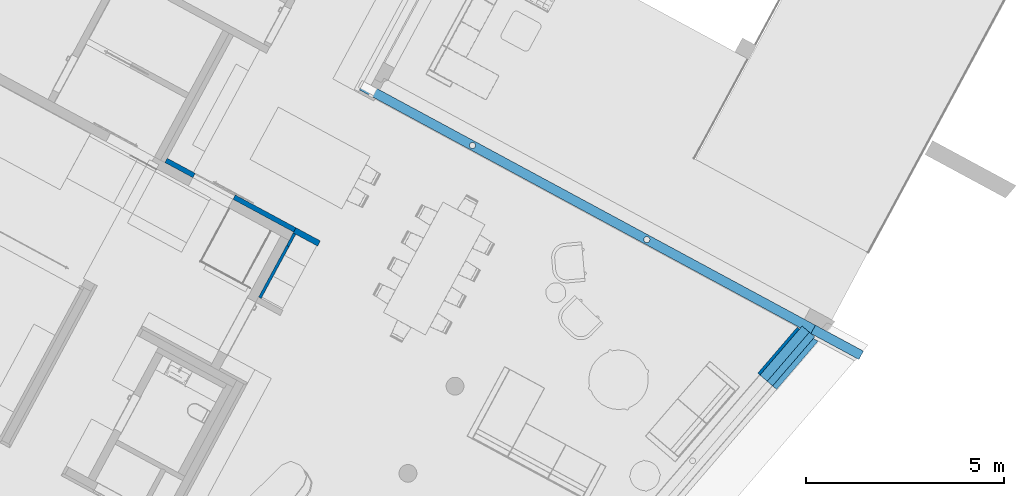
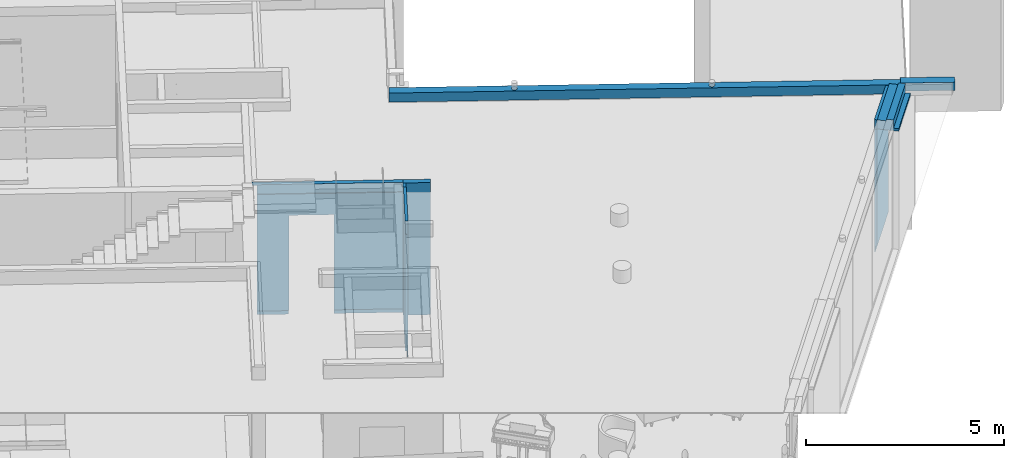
# One storey, part 11 of 52: 8 walls, 1 opening.
"""IFC2X3 building model written with IfcOpenShell, lengths in metres."""

import ifcopenshell
import ifcopenshell.guid

model = None  # the IFC model being written
_history = None  # IfcOwnerHistory: only IFC2X3 demands one
_inside = {}  # id of a spatial element -> (the spatial element, [elements in it])
_under = {}  # id of a project, library or spatial element -> (it, [spatial elements below it])
_declared = {}  # id of a project -> (the project, [libraries it declares])
_typed = {}  # id of a type object -> (the type object, [elements of that type])
_made_of = {}  # id of a material, layer set ... -> (it, [elements and type objects made of it])


def new_model(schema):
    """Start an empty IFC model of exactly this schema.

    Asked for "IFC4X3", IfcOpenShell would pick the latest addendum, in which some entities
    have other attributes; the version numbers below select the first issue.
    IFC2X3 requires an IfcOwnerHistory on every rooted entity: one is made here for all.
    """
    global model, _history
    if schema == "IFC4X3":
        model = ifcopenshell.file(schema_version=(4, 3, 0, 0))
    else:
        model = ifcopenshell.file(schema=schema)
    _inside.clear()
    _under.clear()
    _declared.clear()
    _typed.clear()
    _made_of.clear()
    _history = None
    if model.schema == "IFC2X3":
        org = make("IfcOrganization", Name="unknown")
        user = make(
            "IfcPersonAndOrganization",
            ThePerson=make("IfcPerson", FamilyName="unknown"),
            TheOrganization=org,
        )
        app = make(
            "IfcApplication",
            ApplicationDeveloper=org,
            Version="unknown",
            ApplicationFullName="unknown",
            ApplicationIdentifier="unknown",
        )
        _history = make(
            "IfcOwnerHistory",
            OwningUser=user,
            OwningApplication=app,
            ChangeAction="ADDED",
            CreationDate=0,
        )
    return model


def make(cls, **values):
    """One entity of the class cls with the attributes given. An attribute that is None is left unset."""
    return model.create_entity(
        cls, **{name: value for name, value in values.items() if value is not None}
    )


def entity(cls, *values):
    """Any entity or typed value of the class cls, its attributes in the order of the schema. None: left unset."""
    e = model.create_entity(cls)
    for i, value in enumerate(values):
        if value is not None:
            e[i] = value
    return e


def rooted(cls, **values):
    """An entity with a GlobalId (a new one), such as an element, a storey or a relation."""
    return make(cls, GlobalId=ifcopenshell.guid.new(), OwnerHistory=_history, **values)


def si_unit(unit_type, name, prefix=None):
    """IfcSIUnit, for example si_unit("LENGTHUNIT", "METRE", prefix="MILLI")."""
    return make("IfcSIUnit", UnitType=unit_type, Prefix=prefix, Name=name)


def converted_unit(unit_type, name, factor, base, dimensions=None, offset=None):
    """IfcConversionBasedUnit, such as the inch: factor (a typed value) times the base unit."""
    return make(
        "IfcConversionBasedUnit"
        if offset is None
        else "IfcConversionBasedUnitWithOffset",
        ConversionOffset=offset,
        Dimensions=None
        if dimensions is None
        else entity("IfcDimensionalExponents", *dimensions),
        UnitType=unit_type,
        Name=name,
        ConversionFactor=make(
            "IfcMeasureWithUnit", ValueComponent=factor, UnitComponent=base
        ),
    )


def derived_unit(unit_type, elements):
    """IfcDerivedUnit: a product of units, each with its exponent."""
    return make(
        "IfcDerivedUnit",
        Elements=[
            make("IfcDerivedUnitElement", Unit=unit, Exponent=power)
            for unit, power in elements
        ],
        UnitType=unit_type,
    )


def money_unit(currency):
    """IfcMonetaryUnit."""
    return make("IfcMonetaryUnit", Currency=currency)


def assignment(units):
    """IfcUnitAssignment: the units of a project."""
    return None if units is None else make("IfcUnitAssignment", Units=units)


def point(xyz):
    """IfcCartesianPoint."""
    return None if xyz is None else make("IfcCartesianPoint", Coordinates=xyz)


def direction(xyz):
    """IfcDirection."""
    return None if xyz is None else make("IfcDirection", DirectionRatios=xyz)


def frame(location, z_axis=None, x_axis=None):
    """IfcAxis2Placement3D, a coordinate frame: its origin and axes. An axis left out is left unset."""
    return make(
        "IfcAxis2Placement3D",
        Location=point(location),
        Axis=direction(z_axis),
        RefDirection=direction(x_axis),
    )


def frame_2d(location, x_axis=None):
    """IfcAxis2Placement2D, a coordinate frame in the plane: its origin and x axis."""
    return make(
        "IfcAxis2Placement2D", Location=point(location), RefDirection=direction(x_axis)
    )


def origin_with_axes():
    """The frame at (0, 0, 0) with the z axis (0, 0, 1) and the x axis (1, 0, 0) written out."""
    return frame((0.0, 0.0, 0.0), z_axis=(0.0, 0.0, 1.0), x_axis=(1.0, 0.0, 0.0))


def origin_2d_with_axis():
    """The frame at (0, 0) in the plane with the x axis (1, 0) written out."""
    return frame_2d((0.0, 0.0), x_axis=(1.0, 0.0))


def place(relative_to, where):
    """IfcLocalPlacement: puts the frame where relative to a parent placement (None: the world)."""
    return make(
        "IfcLocalPlacement", PlacementRelTo=relative_to, RelativePlacement=where
    )


def context(
    kind, dimensions, precision=None, world=None, true_north=None, identifier=None
):
    """IfcGeometricRepresentationContext, for example the 3D "Model" context."""
    return make(
        "IfcGeometricRepresentationContext",
        ContextIdentifier=identifier,
        ContextType=kind,
        CoordinateSpaceDimension=dimensions,
        Precision=precision,
        WorldCoordinateSystem=world,
        TrueNorth=true_north,
    )


def subcontext(parent, identifier, kind, view, scale=None):
    """IfcGeometricRepresentationSubContext, for example "Body" below "Model"."""
    return make(
        "IfcGeometricRepresentationSubContext",
        ContextIdentifier=identifier,
        ContextType=kind,
        ParentContext=parent,
        TargetScale=scale,
        TargetView=view,
    )


def project(units=None, contexts=None):
    """IfcProject with its units and contexts."""
    return rooted(
        "IfcProject",
        Name="project",
        RepresentationContexts=contexts,
        UnitsInContext=assignment(units),
    )


def spatial(cls, under=None, at=None, **own):
    """A site, building, storey or space (cls), placed at a placement, below another one or the project."""
    s = rooted(cls, ObjectPlacement=at, **own)
    if under is not None:
        _under.setdefault(under.id(), (under, []))[1].append(s)
    return s


def profile(cls, at=None, kind="AREA", **sizes):
    """A parametric profile (cls). Its sizes go by their IFC names, for example OverallWidth=200.0."""
    return make(cls, ProfileType=kind, Position=at, **sizes)


def rectangle(**sizes):
    """IfcRectangleProfileDef."""
    return profile("IfcRectangleProfileDef", **sizes)


def extrude(swept, where, along, depth):
    """IfcExtrudedAreaSolid: the profile swept, set in the frame where, extruded along a direction by depth."""
    return make(
        "IfcExtrudedAreaSolid",
        SweptArea=swept,
        Position=where,
        ExtrudedDirection=direction(along),
        Depth=depth,
    )


def faces_of(points, faces, orient=None, outer=None):
    """IfcFace entities. A face is a list of loops; a loop is a list of indices into points, from 0.

    orient and outer hold one flag for each loop. By default every Orientation is true, the
    first loop of a face is its IfcFaceOuterBound and the others are IfcFaceBound.
    """
    made = []
    for i, loops in enumerate(faces):
        bounds = []
        for j, loop in enumerate(loops):
            is_outer = j == 0 if outer is None else outer[i][j]
            bounds.append(
                make(
                    "IfcFaceOuterBound" if is_outer else "IfcFaceBound",
                    Bound=make("IfcPolyLoop", Polygon=[points[k] for k in loop]),
                    Orientation=True if orient is None else orient[i][j],
                )
            )
        made.append(make("IfcFace", Bounds=bounds))
    return made


def faceted_brep(points, faces, orient=None, outer=None, voids=None):
    """IfcFacetedBrep: a solid bounded by flat faces; with voids (closed shells), ...WithVoids."""
    shared = [point(p) for p in points]
    hull = make("IfcClosedShell", CfsFaces=faces_of(shared, faces, orient, outer))
    if voids is None:
        return make("IfcFacetedBrep", Outer=hull)
    return make(
        "IfcFacetedBrepWithVoids",
        Outer=hull,
        Voids=[
            make(cls, CfsFaces=faces_of(shared, fs, o, b)) for cls, fs, o, b in voids
        ],
    )


def shape(context_of_items, identifier, shape_type, items):
    """IfcShapeRepresentation: the items that make up one representation, for example the "Body"."""
    return make(
        "IfcShapeRepresentation",
        ContextOfItems=context_of_items,
        RepresentationIdentifier=identifier,
        RepresentationType=shape_type,
        Items=items,
    )


def material(Name=None, Category=None):
    """IfcMaterial."""
    return make("IfcMaterial", Name=Name, Category=Category)


def material_list(materials):
    """IfcMaterialList."""
    return make("IfcMaterialList", Materials=materials)


def made_of(thing, what):
    """Note that an element or type object is made of a material, layer set ...; save() writes the relation."""
    if what is not None:
        _made_of.setdefault(what.id(), (what, []))[1].append(thing)
    return thing


def type_object(cls, material=None, **own):
    """A type object (cls), such as IfcWallType, which elements share."""
    return made_of(rooted(cls, **own), material)


def element(
    cls,
    number,
    at=None,
    inside=None,
    cuts=None,
    type_object=None,
    material=None,
    context=None,
    identifier="Body",
    shape_type=None,
    held_by="IfcProductDefinitionShape",
    body=None,
    shapes=None,
    **own,
):
    """One element of the class cls, such as IfcWall. Its Tag is "e" and its number.

    at: its placement. inside: the storey or other place that contains it. cuts: it is an
    opening in that element (IfcRelVoidsElement). A single representation is given by context,
    identifier, shape_type and body (its items); several are given by shapes. held_by: the class
    of the entity that holds the representations. save() writes the other relations.
    """
    e = rooted(cls, Tag="e%d" % number, ObjectPlacement=at, **own)
    if body is not None:
        shapes = [shape(context, identifier, shape_type, body)]
    if shapes is not None:
        e.Representation = make(held_by, Representations=shapes)
    if inside is not None:
        _inside.setdefault(inside.id(), (inside, []))[1].append(e)
    if cuts is not None:
        rooted(
            "IfcRelVoidsElement", RelatingBuildingElement=cuts, RelatedOpeningElement=e
        )
    if type_object is not None:
        _typed.setdefault(type_object.id(), (type_object, []))[1].append(e)
    return made_of(e, material)


def aggregate(whole, parts):
    """IfcRelAggregates: a whole, such as a stair, and the parts it consists of."""
    return rooted("IfcRelAggregates", RelatingObject=whole, RelatedObjects=parts)


def save(model, path):
    """Write the relations noted so far, then the file.

    IfcRelAggregates (storeys below a building ...), IfcRelContainedInSpatialStructure (elements
    in a storey), IfcRelDefinesByType, IfcRelAssociatesMaterial and IfcRelDeclares: one each for
    every whole, place, type object, material and project.
    """
    for whole, parts in _under.values():
        aggregate(whole, parts)
    for where, things in _inside.values():
        rooted(
            "IfcRelContainedInSpatialStructure",
            RelatedElements=things,
            RelatingStructure=where,
        )
    for kind, things in _typed.values():
        rooted("IfcRelDefinesByType", RelatedObjects=things, RelatingType=kind)
    for what, things in _made_of.values():
        rooted("IfcRelAssociatesMaterial", RelatedObjects=things, RelatingMaterial=what)
    for by, libraries in _declared.values():
        rooted("IfcRelDeclares", RelatingContext=by, RelatedDefinitions=libraries)
    model.write(path)


model = new_model("IFC2X3")

# Units and contexts
model_context = context("Model", 3, precision=1e-05, world=origin_with_axes(), true_north=direction((0.0, 1.0)))
body_context = subcontext(model_context, "Body", "Model", "MODEL_VIEW")
ifc_project = project(units=[si_unit("LENGTHUNIT", "METRE"), si_unit("AREAUNIT", "SQUARE_METRE"), si_unit("VOLUMEUNIT", "CUBIC_METRE"), converted_unit("PLANEANGLEUNIT", "DEGREE", entity("IfcPlaneAngleMeasure", 0.0174532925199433), si_unit("PLANEANGLEUNIT", "RADIAN"), dimensions=[0, 0, 0, 0, 0, 0, 0]), money_unit("EUR"), converted_unit("TIMEUNIT", "Year", entity("IfcTimeMeasure", 31556926.0), si_unit("TIMEUNIT", "SECOND"), dimensions=[0, 0, 1, 0, 0, 0, 0]), si_unit("MASSUNIT", "GRAM", prefix="KILO"), si_unit("THERMODYNAMICTEMPERATUREUNIT", "DEGREE_CELSIUS"), si_unit("LUMINOUSINTENSITYUNIT", "LUMEN"), si_unit("ENERGYUNIT", "JOULE", prefix="MEGA"), derived_unit("THERMALCONDUCTANCEUNIT", [(si_unit("POWERUNIT", "WATT"), 1), (si_unit("LENGTHUNIT", "METRE"), -1), (si_unit("THERMODYNAMICTEMPERATUREUNIT", "KELVIN"), -1)]), derived_unit("SPECIFICHEATCAPACITYUNIT", [(si_unit("ENERGYUNIT", "JOULE"), 1), (si_unit("MASSUNIT", "GRAM", prefix="KILO"), -1), (si_unit("THERMODYNAMICTEMPERATUREUNIT", "KELVIN"), -1)]), derived_unit("MASSDENSITYUNIT", [(si_unit("MASSUNIT", "GRAM", prefix="KILO"), 1), (si_unit("VOLUMEUNIT", "CUBIC_METRE"), -1)])], contexts=[model_context])

# Site, building, storey
site_placement = place(None, frame((-3.949935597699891, 1.740105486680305, 0.0), z_axis=(0.0, 0.0, 1.0), x_axis=(0.8799804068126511, -0.475009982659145, 0.0)))
site = spatial("IfcSite", under=ifc_project, at=site_placement, Name="Gelände", CompositionType="ELEMENT")
building_placement = place(site_placement, origin_with_axes())
building = spatial("IfcBuilding", under=site, at=building_placement, Name="Gebäude", CompositionType="ELEMENT")
storey_placement = place(building_placement, origin_with_axes())
storey = spatial("IfcBuildingStorey", under=building, at=storey_placement, Name="Erdgeschoss", CompositionType="ELEMENT", Elevation=0.0)

# Walls
ifc_material_1 = material(Name="_SIWH - Beton, Stahlbeton")
wall_type_1 = type_object("IfcWallType", Name="_SIWH - Beton, Stahlbeton 240", PredefinedType="NOTDEFINED")
wall_1_placement = place(storey_placement, frame((30.10699423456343, 15.08304610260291, 3.620000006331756), z_axis=(0.0, 0.0, 1.0), x_axis=(-1.0, 0.0, 0.0)))
element("IfcWall", 1, at=wall_1_placement, inside=storey, type_object=wall_type_1, material=ifc_material_1, Name="A-Wand052", context=body_context, shape_type="Brep", body=[
    faceted_brep([(0.0, 0.0, 0.0), (0.0, 0.2400000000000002, 0.0), (12.93951727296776, 0.2399999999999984, 0.0), (12.93951727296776, 0.0, 0.0), (4.724345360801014, 0.1814304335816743, 0.0), (4.707531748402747, 0.1646168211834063, 0.0), (4.69673674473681, 0.1434304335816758, 0.0), (4.693017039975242, 0.1199451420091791, 0.0), (4.69673674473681, 0.09645985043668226, 0.0), (4.707531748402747, 0.07527346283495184, 0.0), (4.724345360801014, 0.05845985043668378, 0.0), (4.745531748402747, 0.047664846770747, 0.0), (4.769017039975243, 0.04394514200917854, 0.0), (4.792502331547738, 0.047664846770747, 0.0), (4.813688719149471, 0.05845985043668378, 0.0), (4.830502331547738, 0.07527346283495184, 0.0), (4.841297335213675, 0.09645985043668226, 0.0), (4.845017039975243, 0.1199451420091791, 0.0), (4.841297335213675, 0.1434304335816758, 0.0), (4.830502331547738, 0.1646168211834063, 0.0), (4.813688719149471, 0.1814304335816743, 0.0), (4.792502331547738, 0.1922254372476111, 0.0), (4.769017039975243, 0.1959451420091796, 0.0), (4.745531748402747, 0.1922254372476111, 0.0), (9.721346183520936, 0.1814304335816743, 0.0), (9.70453257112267, 0.1646168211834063, 0.0), (9.693737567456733, 0.1434304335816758, 0.0), (9.690017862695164, 0.1199451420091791, 0.0), (9.693737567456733, 0.09645985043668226, 0.0), (9.70453257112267, 0.07527346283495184, 0.0), (9.721346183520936, 0.05845985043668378, 0.0), (9.74253257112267, 0.047664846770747, 0.0), (9.766017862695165, 0.04394514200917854, 0.0), (9.78950315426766, 0.047664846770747, 0.0), (9.810689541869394, 0.05845985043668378, 0.0), (9.82750315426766, 0.07527346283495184, 0.0), (9.838298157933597, 0.09645985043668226, 0.0), (9.842017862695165, 0.1199451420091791, 0.0), (9.838298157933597, 0.1434304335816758, 0.0), (9.82750315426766, 0.1646168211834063, 0.0), (9.810689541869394, 0.1814304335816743, 0.0), (9.78950315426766, 0.1922254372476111, 0.0), (9.766017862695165, 0.1959451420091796, 0.0), (9.74253257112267, 0.1922254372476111, 0.0), (0.0, 0.2400000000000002, 0.2800000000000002), (0.0, 0.0, 0.2800000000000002), (12.93951727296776, 0.2399999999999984, 0.2800000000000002), (12.93951727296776, 0.0, 0.2800000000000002), (4.724345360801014, 0.1814304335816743, 0.2800000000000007), (4.707531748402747, 0.1646168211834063, 0.2800000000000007), (4.69673674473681, 0.1434304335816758, 0.2800000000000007), (4.693017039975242, 0.1199451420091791, 0.2800000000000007), (4.69673674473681, 0.09645985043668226, 0.2800000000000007), (4.707531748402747, 0.07527346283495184, 0.2800000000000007), (4.724345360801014, 0.05845985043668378, 0.2800000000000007), (4.745531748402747, 0.047664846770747, 0.2800000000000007), (4.769017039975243, 0.04394514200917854, 0.2800000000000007), (4.792502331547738, 0.047664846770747, 0.2800000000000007), (4.813688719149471, 0.05845985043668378, 0.2800000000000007), (4.830502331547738, 0.07527346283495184, 0.2800000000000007), (4.841297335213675, 0.09645985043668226, 0.2800000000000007), (4.845017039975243, 0.1199451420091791, 0.2800000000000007), (4.841297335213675, 0.1434304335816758, 0.2800000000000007), (4.830502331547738, 0.1646168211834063, 0.2800000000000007), (4.813688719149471, 0.1814304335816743, 0.2800000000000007), (4.792502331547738, 0.1922254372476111, 0.2800000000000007), (4.769017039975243, 0.1959451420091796, 0.2800000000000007), (4.745531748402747, 0.1922254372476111, 0.2800000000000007), (9.721346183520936, 0.1814304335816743, 0.2800000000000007), (9.70453257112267, 0.1646168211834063, 0.2800000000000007), (9.693737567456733, 0.1434304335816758, 0.2800000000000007), (9.690017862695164, 0.1199451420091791, 0.2800000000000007), (9.693737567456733, 0.09645985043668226, 0.2800000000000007), (9.70453257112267, 0.07527346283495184, 0.2800000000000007), (9.721346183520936, 0.05845985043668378, 0.2800000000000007), (9.74253257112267, 0.047664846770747, 0.2800000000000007), (9.766017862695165, 0.04394514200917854, 0.2800000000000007), (9.78950315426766, 0.047664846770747, 0.2800000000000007), (9.810689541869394, 0.05845985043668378, 0.2800000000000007), (9.82750315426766, 0.07527346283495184, 0.2800000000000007), (9.838298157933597, 0.09645985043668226, 0.2800000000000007), (9.842017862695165, 0.1199451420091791, 0.2800000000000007), (9.838298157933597, 0.1434304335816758, 0.2800000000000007), (9.82750315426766, 0.1646168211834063, 0.2800000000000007), (9.810689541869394, 0.1814304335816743, 0.2800000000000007), (9.78950315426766, 0.1922254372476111, 0.2800000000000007), (9.766017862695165, 0.1959451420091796, 0.2800000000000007), (9.74253257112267, 0.1922254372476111, 0.2800000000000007)], [[[0, 1, 2, 3], [4, 5, 6, 7, 8, 9, 10, 11, 12, 13, 14, 15, 16, 17, 18, 19, 20, 21, 22, 23], [24, 25, 26, 27, 28, 29, 30, 31, 32, 33, 34, 35, 36, 37, 38, 39, 40, 41, 42, 43]], [[44, 1, 0, 45]], [[1, 44, 46, 2]], [[3, 2, 46, 47]], [[45, 0, 3, 47]], [[4, 48, 49, 5]], [[5, 49, 50, 6]], [[6, 50, 51, 7]], [[7, 51, 52, 8]], [[8, 52, 53, 9]], [[9, 53, 54, 10]], [[10, 54, 55, 11]], [[11, 55, 56, 12]], [[12, 56, 57, 13]], [[13, 57, 58, 14]], [[14, 58, 59, 15]], [[15, 59, 60, 16]], [[16, 60, 61, 17]], [[17, 61, 62, 18]], [[18, 62, 63, 19]], [[19, 63, 64, 20]], [[20, 64, 65, 21]], [[21, 65, 66, 22]], [[22, 66, 67, 23]], [[23, 67, 48, 4]], [[24, 68, 69, 25]], [[25, 69, 70, 26]], [[26, 70, 71, 27]], [[27, 71, 72, 28]], [[28, 72, 73, 29]], [[29, 73, 74, 30]], [[30, 74, 75, 31]], [[31, 75, 76, 32]], [[32, 76, 77, 33]], [[33, 77, 78, 34]], [[34, 78, 79, 35]], [[35, 79, 80, 36]], [[36, 80, 81, 37]], [[37, 81, 82, 38]], [[38, 82, 83, 39]], [[39, 83, 84, 40]], [[40, 84, 85, 41]], [[41, 85, 86, 42]], [[42, 86, 87, 43]], [[43, 87, 68, 24]], [[44, 45, 47, 46], [54, 53, 52, 51, 50, 49, 48, 67, 66, 65, 64, 63, 62, 61, 60, 59, 58, 57, 56, 55], [74, 73, 72, 71, 70, 69, 68, 87, 86, 85, 84, 83, 82, 81, 80, 79, 78, 77, 76, 75]]]),
])
wall_2_placement = place(storey_placement, frame((31.48370260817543, 15.08304611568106, 3.7), z_axis=(0.0, 0.0, 1.0), x_axis=(-1.0, 0.0, 0.0)))
element("IfcWall", 2, at=wall_2_placement, inside=storey, type_object=wall_type_1, material=ifc_material_1, Name="A-Wand053", context=body_context, shape_type="Brep", body=[
    faceted_brep([(0.0, 0.2400000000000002, 0.25), (0.0, 0.0, 0.25), (1.376707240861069, 0.0, 0.25), (1.376707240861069, 0.2400000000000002, 0.25), (0.0, 0.2400000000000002, 0.0), (0.0, 0.0, 0.0), (1.376707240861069, 0.0, 0.0), (1.376707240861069, 0.2400000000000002, 0.0)], [[[0, 1, 2, 3]], [[4, 5, 1, 0]], [[1, 5, 6, 2]], [[7, 3, 2, 6]], [[4, 0, 3, 7]], [[5, 4, 7, 6]]]),
])
ifc_material_2 = material(Name="_SIWH - Gipskarton")
ifc_material_3 = material(Name="_SIWH - Installationswand, raumhoch")
ifc_material_list_1 = material_list([ifc_material_2, ifc_material_2, ifc_material_3])
wall_type_2 = type_object("IfcWallType", Name="_SIWH - WI | Vorsatz-GK 2-lagig | 7,5cm  75", PredefinedType="NOTDEFINED")
wall_3_placement = place(storey_placement, frame((17.40748824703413, 10.87285187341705, -0.1800000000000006), z_axis=(0.0, 0.0, 1.0), x_axis=(0.0, -1.0, 0.0)))
element("IfcWall", 3, at=wall_3_placement, inside=storey, type_object=wall_type_2, material=ifc_material_list_1, Name="L-Wand012", context=body_context, shape_type="Brep", body=[
    faceted_brep([(0.0, 0.0625, 4.080000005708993), (0.3550512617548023, 0.0625, 4.080000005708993), (0.3550512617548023, 0.07499999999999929, 4.080000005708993), (0.0, 0.07499999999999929, 4.080000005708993), (0.0, 0.0625, 0.0), (0.3550512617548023, 0.0625, 0.0), (0.3550512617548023, 0.07499999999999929, 0.0), (0.0, 0.07499999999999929, 0.0)], [[[0, 1, 2, 3]], [[4, 5, 1, 0]], [[2, 1, 5, 6]], [[3, 2, 6, 7]], [[4, 0, 3, 7]], [[7, 6, 5, 4]]]),
    faceted_brep([(0.0, 0.05000000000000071, 4.080000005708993), (0.3550512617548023, 0.05000000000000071, 4.080000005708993), (0.3550512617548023, 0.0625, 4.080000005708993), (0.0, 0.0625, 4.080000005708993), (0.0, 0.05000000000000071, 0.0), (0.3550512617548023, 0.05000000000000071, 0.0), (0.3550512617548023, 0.0625, 0.0), (0.0, 0.0625, 0.0)], [[[0, 1, 2, 3]], [[4, 5, 1, 0]], [[2, 1, 5, 6]], [[3, 2, 6, 7]], [[4, 0, 3, 7]], [[7, 6, 5, 4]]]),
    faceted_brep([(5.277309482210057e-05, 0.05000000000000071, 3.780000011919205), (5.277309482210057e-05, 0.05000000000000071, 3.795000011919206), (0.0, 0.05000000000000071, 3.795000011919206), (0.0, 0.05000000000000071, 4.080000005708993), (0.3550512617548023, 0.05000000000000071, 4.080000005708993), (0.3550512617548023, 0.05000000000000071, 0.1800000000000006), (0.0, 0.05000000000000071, 0.1800000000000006), (0.0, 0.05000000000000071, 3.780000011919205), (5.190005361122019e-05, 0.02500547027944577, 3.780000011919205), (5.190005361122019e-05, 0.02500547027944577, 3.795000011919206), (0.0, 0.0, 3.795000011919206), (5.10266302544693e-05, 0.0, 3.795000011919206), (0.0, 0.0, 4.080000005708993), (0.3550512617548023, 0.0, 4.080000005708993), (0.3550512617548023, 0.0, 0.1800000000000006), (0.0, 0.0, 0.1800000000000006), (0.0, 0.0, 3.780000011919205), (5.10266302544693e-05, 0.0, 3.780000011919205)], [[[0, 1, 2, 3, 4, 5, 6, 7]], [[1, 0, 8, 9]], [[10, 2, 1, 9, 11]], [[2, 10, 12, 3]], [[3, 12, 13, 4]], [[14, 5, 4, 13]], [[15, 6, 5, 14]], [[16, 7, 6, 15]], [[0, 7, 16, 17, 8]], [[17, 11, 9, 8]], [[17, 16, 15, 14, 13, 12, 10, 11]]]),
])
wall_4_placement = place(storey_placement, frame((29.47428625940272, 13.31089260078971, -0.1799999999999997), z_axis=(0.0, 0.0, 1.0), x_axis=(0.2133768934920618, 0.9769699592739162, 0.0)))
element("IfcWall", 4, at=wall_4_placement, inside=storey, type_object=wall_type_2, material=ifc_material_list_1, Name="L-Wand016", context=body_context, shape_type="Brep", body=[
    faceted_brep([(1.532777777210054, 0.06250000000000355, 4.080000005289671), (1.532777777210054, 0.07499999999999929, 4.080000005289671), (0.0, 0.07500000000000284, 4.080000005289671), (0.0, 0.0625, 4.080000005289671), (1.532777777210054, 0.06250000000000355, 0.0), (1.532777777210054, 0.07499999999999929, 0.0), (0.0, 0.07500000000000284, 0.0), (0.0, 0.0625, 0.0)], [[[0, 1, 2, 3]], [[0, 4, 5, 1]], [[1, 5, 6, 2]], [[3, 2, 6, 7]], [[4, 0, 3, 7]], [[5, 4, 7, 6]]]),
    faceted_brep([(1.532777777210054, 0.05000000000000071, 4.080000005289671), (1.532777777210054, 0.06250000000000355, 4.080000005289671), (0.0, 0.0625, 4.080000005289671), (0.0, 0.05000000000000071, 4.080000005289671), (1.532777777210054, 0.05000000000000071, 0.0), (1.532777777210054, 0.06250000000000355, 0.0), (0.0, 0.0625, 0.0), (0.0, 0.05000000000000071, 0.0)], [[[0, 1, 2, 3]], [[0, 4, 5, 1]], [[1, 5, 6, 2]], [[3, 2, 6, 7]], [[4, 0, 3, 7]], [[5, 4, 7, 6]]]),
    faceted_brep([(1.532777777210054, 0.05000000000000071, 3.780000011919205), (1.532777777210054, 0.0149981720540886, 3.780000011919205), (1.532777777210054, 0.0149981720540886, 3.795000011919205), (1.532777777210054, 0.05000000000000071, 3.795000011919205), (1.532777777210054, 0.05000000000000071, 4.080000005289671), (1.532777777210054, 0.0, 4.080000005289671), (1.532777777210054, 0.0, 0.1799999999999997), (1.532777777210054, 0.05000000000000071, 0.1799999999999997), (0.0, 0.05000000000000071, 3.780000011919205), (0.0, 0.0150005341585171, 3.780000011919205), (0.0, 0.0150005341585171, 3.795000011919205), (0.0, 0.05000000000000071, 3.795000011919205), (0.0, 0.05000000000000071, 4.080000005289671), (0.0, 0.0, 4.080000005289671), (0.0, 0.0, 0.1799999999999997), (0.0, 0.05000000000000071, 0.1799999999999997)], [[[0, 1, 2, 3, 4, 5, 6, 7]], [[1, 0, 8, 9]], [[2, 1, 9, 10]], [[3, 2, 10, 11]], [[3, 11, 12, 4]], [[13, 5, 4, 12]], [[14, 6, 5, 13]], [[7, 6, 14, 15]], [[8, 0, 7, 15]], [[9, 8, 15, 14, 13, 12, 11, 10]]]),
])
wall_5_placement = place(storey_placement, frame((17.40748824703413, 10.51780061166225, -0.1800000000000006), z_axis=(0.0, 0.0, 1.0), x_axis=(0.0, -1.0, 0.0)))
element("IfcWall", 5, at=wall_5_placement, inside=storey, type_object=wall_type_2, material=ifc_material_list_1, Name="L-Wand017", context=body_context, shape_type="Brep", body=[
    faceted_brep([(0.0, 0.0625, 4.200000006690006), (1.483958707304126, 0.0625, 4.200000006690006), (1.483958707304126, 0.07499999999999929, 4.200000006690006), (0.0, 0.07499999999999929, 4.200000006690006), (0.0, 0.0625, 0.0), (1.483958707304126, 0.0625, 0.0), (1.483958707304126, 0.07499999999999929, 0.0), (0.0, 0.07499999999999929, 0.0)], [[[0, 1, 2, 3]], [[4, 5, 1, 0]], [[2, 1, 5, 6]], [[3, 2, 6, 7]], [[4, 0, 3, 7]], [[7, 6, 5, 4]]]),
    faceted_brep([(0.0, 0.05000000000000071, 4.200000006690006), (1.483958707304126, 0.05000000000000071, 4.200000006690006), (1.483958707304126, 0.0625, 4.200000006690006), (0.0, 0.0625, 4.200000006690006), (0.0, 0.05000000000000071, 0.0), (1.483958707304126, 0.05000000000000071, 0.0), (1.483958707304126, 0.0625, 0.0), (0.0, 0.0625, 0.0)], [[[0, 1, 2, 3]], [[4, 5, 1, 0]], [[2, 1, 5, 6]], [[3, 2, 6, 7]], [[4, 0, 3, 7]], [[7, 6, 5, 4]]]),
    faceted_brep([(1.389976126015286, 0.05000000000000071, 3.780000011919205), (1.483958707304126, 0.05000000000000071, 3.780000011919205), (1.483958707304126, 0.05000000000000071, 0.1800000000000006), (0.0, 0.05000000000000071, 0.1800000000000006), (0.0, 0.05000000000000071, 4.200000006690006), (1.483958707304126, 0.05000000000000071, 4.200000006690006), (1.483958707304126, 0.05000000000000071, 3.795000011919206), (1.389976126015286, 0.05000000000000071, 3.795000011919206), (1.389978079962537, 0.02500698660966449, 3.780000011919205), (1.38998003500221, 0.0, 3.780000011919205), (1.483958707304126, 0.0, 3.780000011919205), (1.483958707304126, 0.0, 0.1800000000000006), (0.0, 0.0, 0.1800000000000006), (0.0, 0.0, 4.200000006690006), (1.483958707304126, 0.0, 4.200000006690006), (1.483958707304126, 0.0, 3.795000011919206), (1.38998003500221, 0.0, 3.795000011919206), (1.389978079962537, 0.02500698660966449, 3.795000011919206)], [[[0, 1, 2, 3, 4, 5, 6, 7]], [[1, 0, 8, 9, 10]], [[1, 10, 11, 2]], [[12, 3, 2, 11]], [[3, 12, 13, 4]], [[4, 13, 14, 5]], [[15, 6, 5, 14]], [[7, 6, 15, 16, 17]], [[0, 7, 17, 8]], [[16, 9, 8, 17]], [[16, 15, 14, 13, 12, 11, 10, 9]]]),
])
ifc_material_4 = material(Name="_SIWH - MW Vormauerziegel")
ifc_material_5 = material(Name="_SIWH - Luftschicht vertikal")
ifc_material_6 = material(Name="_SIWH - Dämmung, weich Mineralwolle")
ifc_material_list_2 = material_list([ifc_material_4, ifc_material_5, ifc_material_6, ifc_material_1])
wall_type_3 = type_object("IfcWallType", Name="_SIWH - Sturz Außenwand EG 555 x 330", PredefinedType="NOTDEFINED")
wall_6_placement = place(storey_placement, frame((30.0569664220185, 14.85397262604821, 3.619999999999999), z_axis=(0.0, 0.0, 1.0), x_axis=(-0.2133789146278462, -0.976969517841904, 0.0)))
element("IfcWall", 6, at=wall_6_placement, inside=storey, type_object=wall_type_3, material=ifc_material_list_2, Name="A-Wand041", context=body_context, shape_type="Brep", body=[
    faceted_brep([(1.631873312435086, 0.3150000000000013, 0.0), (0.02427112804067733, 0.3150000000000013, 0.0), (0.02427112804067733, 0.3150000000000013, 0.07999999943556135), (1.631873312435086, 0.3150000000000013, 0.08000000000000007), (1.631873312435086, 0.1999999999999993, 0.0), (0.04938816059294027, 0.1999999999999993, 0.0), (0.04938816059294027, 0.1999999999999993, 0.07999999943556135), (1.631873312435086, 0.1999999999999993, 0.08000000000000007)], [[[0, 1, 2, 3]], [[4, 5, 1, 0]], [[5, 6, 2, 1]], [[3, 2, 6, 7]], [[4, 0, 3, 7]], [[7, 6, 5, 4]]]),
    faceted_brep([(1.631873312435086, 0.2000000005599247, 0.0), (0.04938816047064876, 0.2000000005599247, 0.0), (0.04938816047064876, 0.2000000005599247, 0.07999999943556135), (1.631873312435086, 0.2000000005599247, 0.07999999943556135), (1.631873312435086, 0.1800000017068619, 0.0), (0.05375633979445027, 0.1800000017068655, 0.0), (0.05375633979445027, 0.1800000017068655, 0.07999999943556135), (1.631873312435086, 0.1800000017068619, 0.08000000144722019)], [[[0, 1, 2, 3]], [[4, 5, 1, 0]], [[5, 6, 2, 1]], [[3, 2, 6, 7]], [[0, 3, 7, 4]], [[7, 6, 5, 4]]]),
    faceted_brep([(0.0, 0.05120713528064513, 0.08000000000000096), (0.0, -1.228337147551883e-07, 0.08000000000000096), (0.0, 3.224478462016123e-10, 0.3300000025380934), (0.0, 0.1800000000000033, 0.3300000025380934), (0.0, 0.1800000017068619, 0.08000000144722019), (0.0, 0.1800000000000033, 0.0), (0.0, 0.05120713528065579, 0.0), (0.01118409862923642, 0.0, 0.08000000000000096), (0.01118409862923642, 0.0, 0.0), (1.631873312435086, 3.224513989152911e-10, 0.0), (1.631873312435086, 3.224513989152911e-10, 0.3300000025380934), (1.631873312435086, 0.1799999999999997, 0.3300000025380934), (1.631873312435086, 0.1800000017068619, 0.08000000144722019), (1.631873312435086, 0.1799999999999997, 0.0)], [[[0, 1, 2, 3, 4, 5, 6]], [[1, 0, 7]], [[7, 8, 9, 10, 2, 1]], [[11, 3, 2, 10]], [[12, 4, 3, 11]], [[13, 5, 4, 12]], [[8, 6, 5, 13, 9]], [[0, 6, 8, 7]], [[10, 9, 13, 12, 11]]]),
    faceted_brep([(0.0, -0.2400000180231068, 0.2800000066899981), (1.631873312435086, -0.2400000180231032, 0.2800000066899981), (1.631873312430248, -3.588710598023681e-06, 0.2800000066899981), (0.0, -1.842794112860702e-06, 0.2800000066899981), (0.0, -0.2400000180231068, 0.0), (1.631873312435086, -0.2400000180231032, 0.0), (1.631873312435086, 0.0, 0.0), (0.0, 0.0, 0.0)], [[[0, 1, 2, 3]], [[1, 0, 4, 5]], [[2, 1, 5, 6]], [[2, 6, 7, 3]], [[4, 0, 3, 7]], [[6, 5, 4, 7]]]),
])
ifc_material_list_3 = material_list([ifc_material_2, ifc_material_2, ifc_material_3, ifc_material_2, ifc_material_2])
wall_type_4 = type_object("IfcWallType", Name="_SIWH - WI | Vorsatz-GK 2-lagig | 15cm 150", PredefinedType="NOTDEFINED")
wall_7_placement = place(storey_placement, frame((17.40748824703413, 11.02285187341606, -0.1799999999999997), z_axis=(0.0, 0.0, 1.0), x_axis=(0.9999999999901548, 4.437408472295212e-06, 0.0)))
element("IfcWall", 7, at=wall_7_placement, inside=storey, type_object=wall_type_4, material=ifc_material_list_3, Name="L-Wand018", context=body_context, shape_type="Brep", body=[
    faceted_brep([(0.7000172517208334, -0.01250310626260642, 4.080000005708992), (0.700017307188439, -3.106262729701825e-06, 4.080000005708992), (0.0, 0.0, 4.080000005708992), (-5.546760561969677e-08, -0.01249999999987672, 4.080000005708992), (0.7000172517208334, -0.01250310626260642, 0.0), (0.700017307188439, -3.106262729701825e-06, 0.0), (0.0, 0.0, 0.0), (-5.546760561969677e-08, -0.01249999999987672, 0.0)], [[[0, 1, 2, 3]], [[0, 4, 5, 1]], [[1, 5, 6, 2]], [[3, 2, 6, 7]], [[4, 0, 3, 7]], [[5, 4, 7, 6]]]),
    faceted_brep([(0.7000171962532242, -0.02500310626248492, 4.080000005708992), (0.7000172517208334, -0.01250310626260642, 4.080000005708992), (-5.546760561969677e-08, -0.01249999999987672, 4.080000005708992), (-1.109352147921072e-07, -0.02499999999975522, 4.080000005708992), (0.7000171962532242, -0.02500310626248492, 0.0), (0.7000172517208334, -0.01250310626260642, 0.0), (-5.546760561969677e-08, -0.01249999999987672, 0.0), (-1.109352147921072e-07, -0.02499999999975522, 0.0)], [[[0, 1, 2, 3]], [[0, 4, 5, 1]], [[1, 5, 6, 2]], [[3, 2, 6, 7]], [[4, 0, 3, 7]], [[5, 4, 7, 6]]]),
    faceted_brep([(0.7000167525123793, -0.1250031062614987, 4.080000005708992), (0.7000171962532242, -0.02500310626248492, 4.080000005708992), (-1.109352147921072e-07, -0.02499999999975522, 4.080000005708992), (-5.546760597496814e-07, -0.124999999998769, 4.080000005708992), (0.7000167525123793, -0.1250031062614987, 0.0), (0.7000171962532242, -0.02500310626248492, 0.0), (-1.109352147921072e-07, -0.02499999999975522, 0.0), (-5.546760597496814e-07, -0.124999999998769, 0.0)], [[[0, 1, 2, 3]], [[0, 4, 5, 1]], [[1, 5, 6, 2]], [[3, 2, 6, 7]], [[4, 0, 3, 7]], [[5, 4, 7, 6]]]),
    faceted_brep([(0.7000166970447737, -0.1375031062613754, 4.080000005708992), (0.7000167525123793, -0.1250031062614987, 4.080000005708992), (-5.546760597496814e-07, -0.124999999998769, 4.080000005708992), (-6.101436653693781e-07, -0.1374999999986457, 4.080000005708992), (0.7000166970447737, -0.1375031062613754, 0.0), (0.7000167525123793, -0.1250031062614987, 0.0), (-5.546760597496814e-07, -0.124999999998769, 0.0), (-6.101436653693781e-07, -0.1374999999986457, 0.0)], [[[0, 1, 2, 3]], [[0, 4, 5, 1]], [[1, 5, 6, 2]], [[3, 2, 6, 7]], [[4, 0, 3, 7]], [[5, 4, 7, 6]]]),
    faceted_brep([(0.700016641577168, -0.1500031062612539, 4.080000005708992), (0.7000166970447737, -0.1375031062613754, 4.080000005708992), (-6.101436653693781e-07, -0.1374999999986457, 4.080000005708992), (-6.656112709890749e-07, -0.1499999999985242, 4.080000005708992), (0.700016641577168, -0.1500031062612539, 0.0), (0.7000166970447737, -0.1375031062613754, 0.0), (-6.101436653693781e-07, -0.1374999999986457, 0.0), (-6.656112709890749e-07, -0.1499999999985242, 0.0)], [[[0, 1, 2, 3]], [[0, 4, 5, 1]], [[1, 5, 6, 2]], [[3, 2, 6, 7]], [[4, 0, 3, 7]], [[5, 4, 7, 6]]]),
])

# Wall, opening
wall_type_5 = type_object("IfcWallType", Name="_SIWH - WI | Vorsatz-GK 2-lagig | 12,5cm 125", PredefinedType="NOTDEFINED")
wall_8_placement = place(storey_placement, frame((13.5924871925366, 11.02283494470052, -0.1799999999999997), z_axis=(0.0, 0.0, 1.0), x_axis=(0.9999999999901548, 4.437408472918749e-06, 0.0)))
wall_8 = element("IfcWall", 8, at=wall_8_placement, inside=storey, type_object=wall_type_5, material=ifc_material_list_1, Name="L-Wand011", context=body_context, shape_type="Brep", body=[
    faceted_brep([(0.924999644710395, -4.104601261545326e-06, 3.12), (0.924999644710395, -4.104601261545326e-06, 0.1799999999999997), (0.9249990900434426, -4.104598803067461e-06, 0.0), (0.1249999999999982, -5.546760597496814e-07, 0.0), (0.125, -5.546760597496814e-07, 4.059999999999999), (0.0, 0.0, 4.059999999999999), (0.0, 0.0, 4.080000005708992), (3.815000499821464, -1.692871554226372e-05, 4.080000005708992), (3.815000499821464, -1.692871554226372e-05, 0.0), (2.074999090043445, -9.20761854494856e-06, 0.0), (2.074999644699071, -9.207621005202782e-06, 0.1799999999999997), (2.074999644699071, -9.207621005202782e-06, 3.12), (0.9249995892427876, -0.01250410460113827, 3.12), (0.9249995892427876, -0.01250410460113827, 0.1799999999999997), (0.9249990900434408, -0.01250410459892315, 0.0), (0.1249999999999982, -0.01250055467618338, 0.0), (0.1249999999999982, -0.01250055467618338, 4.059999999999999), (0.0, -0.01250000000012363, 4.059999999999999), (0.0, -0.01250000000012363, 4.080000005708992), (3.815000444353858, -0.01251692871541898, 4.080000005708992), (3.815000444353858, -0.01251692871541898, 0.0), (2.074999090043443, -0.01250920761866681, 0.0), (2.074999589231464, -0.01250920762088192, 0.1799999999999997), (2.074999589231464, -0.01250920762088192, 3.12)], [[[0, 1, 2, 3, 4, 5, 6, 7, 8, 9, 10, 11]], [[1, 0, 12, 13]], [[1, 13, 14, 2]], [[14, 15, 3, 2]], [[4, 3, 15, 16]], [[17, 5, 4, 16]], [[18, 6, 5, 17]], [[6, 18, 19, 7]], [[8, 7, 19, 20]], [[9, 8, 20, 21]], [[22, 10, 9, 21]], [[11, 10, 22, 23]], [[0, 11, 23, 12]], [[23, 22, 21, 20, 19, 18, 17, 16, 15, 14, 13, 12]]]),
    faceted_brep([(0.9249995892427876, -0.01250410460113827, 3.12), (0.9249995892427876, -0.01250410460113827, 0.1799999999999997), (0.9249990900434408, -0.01250410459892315, 0.0), (0.1249999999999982, -0.01250055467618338, 0.0), (0.1249999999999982, -0.01250055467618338, 4.059999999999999), (0.0, -0.01250000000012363, 4.059999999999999), (0.0, -0.01250000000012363, 4.080000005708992), (3.815000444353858, -0.01251692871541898, 4.080000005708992), (3.815000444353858, -0.01251692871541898, 0.0), (2.074999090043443, -0.01250920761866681, 0.0), (2.074999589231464, -0.01250920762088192, 0.1799999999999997), (2.074999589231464, -0.01250920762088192, 3.12), (0.924999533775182, -0.02500410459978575, 3.12), (0.924999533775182, -0.02500410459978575, 0.1799999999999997), (0.9249990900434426, -0.02500410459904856, 0.0), (0.1249999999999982, -0.02500055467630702, 0.0), (0.1249999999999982, -0.02500055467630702, 4.059999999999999), (0.0, -0.02500000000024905, 4.059999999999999), (0.0, -0.02500000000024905, 4.080000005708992), (3.815000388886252, -0.02501692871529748, 4.080000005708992), (3.815000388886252, -0.02501692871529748, 0.0), (2.074999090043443, -0.02500920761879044, 0.0), (2.074999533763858, -0.02500920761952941, 0.1799999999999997), (2.074999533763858, -0.02500920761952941, 3.12)], [[[0, 1, 2, 3, 4, 5, 6, 7, 8, 9, 10, 11]], [[1, 0, 12, 13]], [[1, 13, 14, 2]], [[14, 15, 3, 2]], [[4, 3, 15, 16]], [[17, 5, 4, 16]], [[18, 6, 5, 17]], [[6, 18, 19, 7]], [[8, 7, 19, 20]], [[9, 8, 20, 21]], [[22, 10, 9, 21]], [[11, 10, 22, 23]], [[0, 11, 23, 12]], [[23, 22, 21, 20, 19, 18, 17, 16, 15, 14, 13, 12]]]),
    faceted_brep([(0.924999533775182, -0.02500410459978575, 3.12), (0.924999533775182, -0.02500410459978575, 0.1799999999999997), (0.1249999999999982, -0.02500055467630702, 0.1799999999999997), (0.1249999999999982, -0.02500055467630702, 3.780000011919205), (3.815000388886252, -0.02501692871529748, 3.780000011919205), (3.815000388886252, -0.02501692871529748, 0.1799999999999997), (2.074999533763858, -0.02500920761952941, 0.1799999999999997), (2.074999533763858, -0.02500920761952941, 3.12), (0.9249990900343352, -0.1250041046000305, 3.12), (0.9249990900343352, -0.1250041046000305, 0.1799999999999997), (0.1249999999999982, -0.1250005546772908, 0.1799999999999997), (0.1249999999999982, -0.1250005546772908, 3.780000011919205), (3.814999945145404, -0.1250169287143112, 3.780000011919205), (3.814999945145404, -0.1250169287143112, 0.1799999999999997), (2.074999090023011, -0.1250092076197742, 0.1799999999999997), (2.074999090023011, -0.1250092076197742, 3.12)], [[[0, 1, 2, 3, 4, 5, 6, 7]], [[1, 0, 8, 9]], [[1, 9, 10, 2]], [[3, 2, 10, 11]], [[4, 3, 11, 12]], [[12, 13, 5, 4]], [[14, 6, 5, 13]], [[7, 6, 14, 15]], [[0, 7, 15, 8]], [[15, 14, 13, 12, 11, 10, 9, 8]]]),
    faceted_brep([(3.814999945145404, -0.1250169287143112, 3.795000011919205), (3.815000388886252, -0.02501692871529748, 3.795000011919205), (3.815000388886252, -0.02501692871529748, 4.080000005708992), (3.814999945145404, -0.1250169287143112, 4.080000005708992), (0.1249999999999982, -0.02500055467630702, 3.795000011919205), (0.1249999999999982, -0.1250005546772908, 3.795000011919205), (0.1249999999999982, -0.02500055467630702, 4.059999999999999), (0.0, -0.02500000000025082, 4.059999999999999), (0.0, -0.02500000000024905, 4.080000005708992), (0.0, -0.125000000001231, 4.080000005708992), (0.0, -0.125000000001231, 4.059999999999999), (0.1249999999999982, -0.1250005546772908, 4.059999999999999)], [[[0, 1, 2, 3]], [[4, 1, 0, 5]], [[1, 4, 6, 7, 8, 2]], [[2, 8, 9, 3]], [[5, 0, 3, 9, 10, 11]], [[4, 5, 11, 6]], [[11, 10, 7, 6]], [[10, 9, 8, 7]]]),
])
opening_placement = place(wall_8_placement, frame((1.499999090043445, 0.0, 0.1799999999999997), z_axis=(0.0, 0.0, 1.0), x_axis=(1.0, 0.0, 0.0)))
element("IfcOpeningElement", 9, at=opening_placement, cuts=wall_8, Name="Tür-025", context=body_context, shape_type="SweptSolid", body=[
    extrude(rectangle(XDim=1.149999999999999, YDim=2.94, at=origin_2d_with_axis()), frame((4.437260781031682e-07, -0.02500665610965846, 1.47), z_axis=(-4.437408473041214e-06, -0.9999999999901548, 0.0), x_axis=(0.9999999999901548, -4.437408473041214e-06, 0.0)), (0.0, 0.0, 1.0), 0.225),
    extrude(rectangle(XDim=1.149999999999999, YDim=2.94, at=origin_2d_with_axis()), frame((4.437260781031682e-07, -0.02500665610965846, 1.47), z_axis=(4.437408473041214e-06, 0.9999999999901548, 0.0), x_axis=(0.9999999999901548, -4.437408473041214e-06, 0.0)), (0.0, 0.0, 1.0), 0.15),
])

save(model, "model.ifc")
